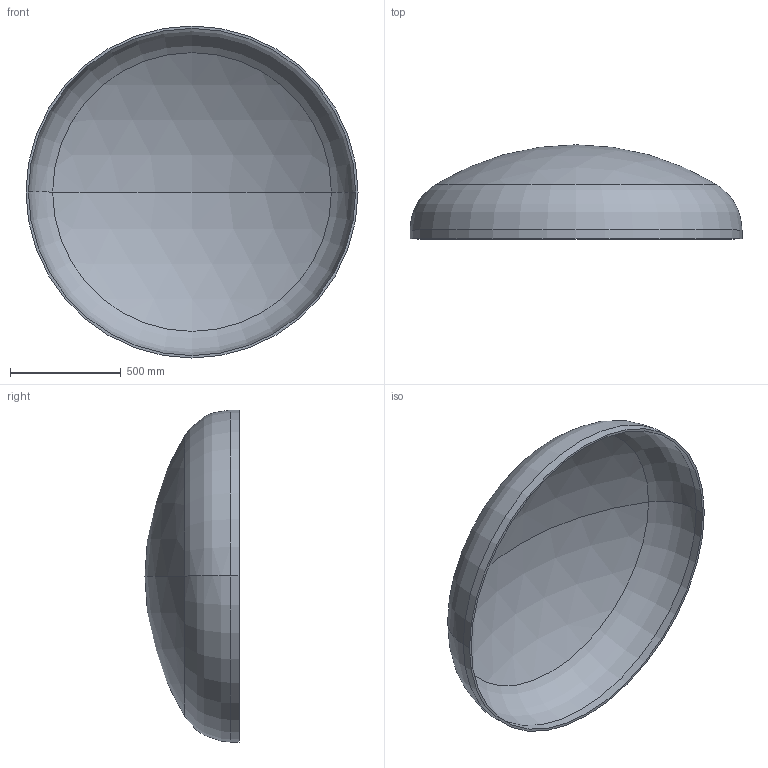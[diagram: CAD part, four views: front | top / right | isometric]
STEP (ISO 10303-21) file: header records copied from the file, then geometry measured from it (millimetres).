
FILE_DESCRIPTION (( 'STEP AP203' ), '1' );
FILE_NAME ('DIN 28013 Korbbogenform_-_Boden DIN 28013 - 1500 x 40 - I - s=11.step', '2016-07-01T10:35:38', ( '' ), ( '' ), 'SwSTEP 2.0', 'SolidWorks 2013', '' );
FILE_SCHEMA (( 'CONFIG_CONTROL_DESIGN' ));
Length unit declared in the file: millimetre
Products named in the file (1): DIN 28013 Korbbogenform_-_Boden DIN 28013 - 1500 x 40 - I - s=11
Bounding box: 1500 x 425.28 x 1500 mm (x, y, z)
Volume: 28698361.2 mm3; surface area: 5269591.5 mm2
Topology: 1 solids, 1 shells, 13 faces, 24 edges, 14 vertices
Faces by surface type: torus 4, cylinder 4, sphere 4, plane 1
Entity records: 407 total; most frequent: DIRECTION 72, CARTESIAN_POINT 52, ORIENTED_EDGE 48, AXIS2_PLACEMENT_3D 34, EDGE_CURVE 24, CIRCLE 20, EDGE_LOOP 14, VERTEX_POINT 14
